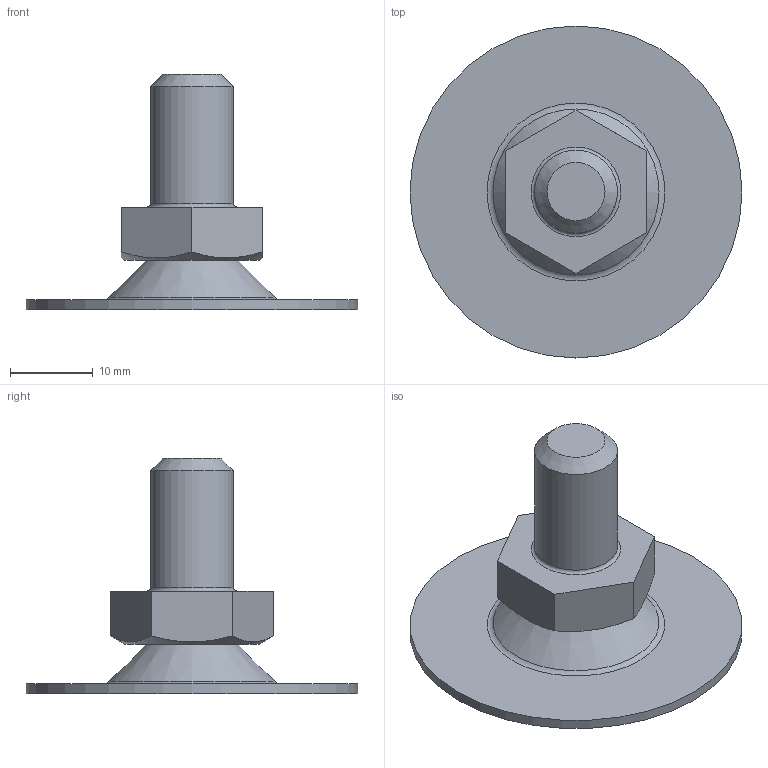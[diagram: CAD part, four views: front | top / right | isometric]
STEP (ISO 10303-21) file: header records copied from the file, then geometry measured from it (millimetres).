
FILE_DESCRIPTION(('STEP AP203'), '1');
FILE_NAME('A00050.1041016', '', ('UNSPECIFIED'), ('UNSPECIFIED'), 'C3D Converter', 'C3D Toolkit', '');
FILE_SCHEMA(('CONFIG_CONTROL_DESIGN'));
Length unit declared in the file: millimetre
Products named in the file (4): A00050.1041016; A00050.1040
Assembly tree (3 placements, depth 2):
  A00050.1041016
    A00050.1040
    (unnamed)
    (unnamed)
Bounding box: 40 x 40 x 28.38 mm (x, y, z)
Volume: 4428.1 mm3; surface area: 4602.6 mm2
Topology: 3 solids, 3 shells, 58 faces, 130 edges, 82 vertices
Faces by surface type: plane 28, torus 8, bspline 8, cone 7, cylinder 6, sphere 1
Full cylindrical faces by diameter (mm): 3.3 x1, 4 x1, 4.5 x1, 8 x1, 10 x1, 40 x1
Entity records: 2171 total; most frequent: CARTESIAN_POINT 784, DIRECTION 242, ORIENTED_EDGE 214, EDGE_CURVE 107, AXIS2_PLACEMENT_3D 95, EDGE_LOOP 86, VERTEX_POINT 81, ADVANCED_FACE 58
